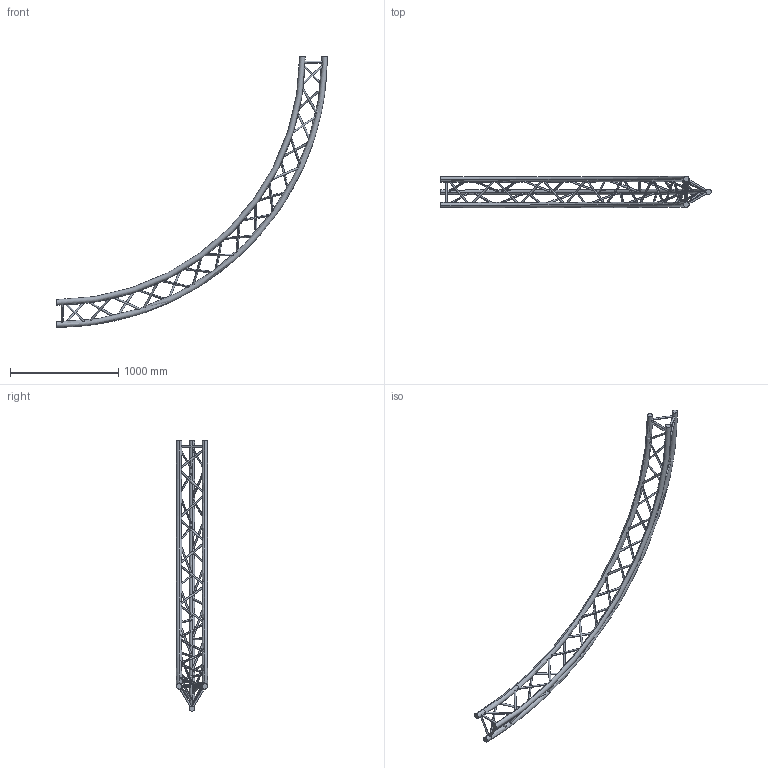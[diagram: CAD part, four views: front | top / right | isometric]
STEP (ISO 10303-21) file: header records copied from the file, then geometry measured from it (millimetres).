
FILE_DESCRIPTION (( 'STEP AP203' ), '1' );
FILE_NAME ('SXC29500PE.STEP', '2009-10-21T09:31:30', ( 'CEDIA' ), ( 'CEDIA INDUSTRIE' ), 'SwSTEP 2.0', 'SolidWorks 2009', '' );
FILE_SCHEMA (( 'CONFIG_CONTROL_DESIGN' ));
Length unit declared in the file: millimetre
Products named in the file (1): SXC29500PE
Bounding box: 2500 x 287 x 2500 mm (x, y, z)
Volume: 24239565.4 mm3; surface area: 2369028.4 mm2
Topology: 1 solids, 1 shells, 114 faces, 324 edges, 216 vertices
Faces by surface type: cylinder 102, torus 6, plane 6
Entity records: 13018 total; most frequent: CARTESIAN_POINT 10162, ORIENTED_EDGE 648, DIRECTION 368, EDGE_CURVE 324, VERTEX_POINT 216, EDGE_LOOP 216, B_SPLINE_CURVE_WITH_KNOTS 204, AXIS2_PLACEMENT_3D 133
